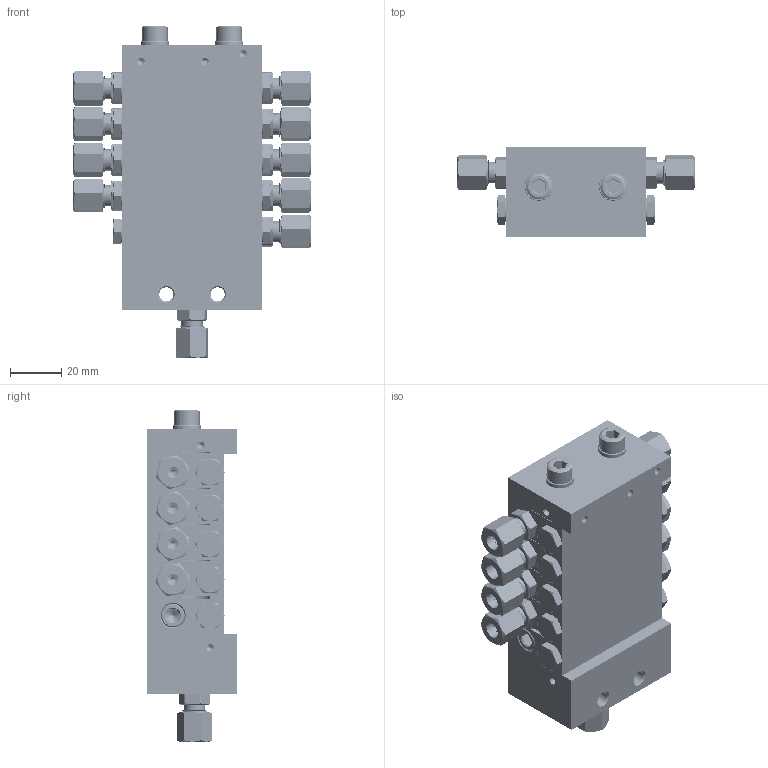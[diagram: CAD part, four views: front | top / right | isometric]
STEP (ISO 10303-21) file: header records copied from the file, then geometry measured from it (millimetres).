
FILE_DESCRIPTION (( 'STEP AP214' ), '1' );
FILE_NAME ('STW_XV_0143_09_050_9_Auslässe.STEP', '2026-01-28T14:49:38', ( '' ), ( '' ), 'SwSTEP 2.0', 'SolidWorks 2022', '' );
FILE_SCHEMA (( 'AUTOMOTIVE_DESIGN' ));
Length unit declared in the file: millimetre
Products named in the file (15): 991214010601; XV_Mittelelement; STW_XV_0143_09_050_9_Auslässe; STW_XV_Verbindungsstopen; Verschlussstopfen_1_8; 991214010601_Schneidring; 991214010601_Koerper; STW_XV_Kolbenanschlag; STW_XV_END; U_Scheibe_6; STW_XV_ENGANG; 991214010601_Mutter; M6X65_DIN_912; STW_XV_MITTEL_1; Verschlussstopfen_1_8_2
Assembly tree (46 placements, depth 3):
  STW_XV_0143_09_050_9_Auslässe
    STW_XV_ENGANG
    STW_XV_MITTEL_1  x3
    STW_XV_END
    Verschlussstopfen_1_8_2  x6
    STW_XV_Kolbenanschlag  x6
    STW_XV_Verbindungsstopen  x3
    M6X65_DIN_912  x2
    U_Scheibe_6  x2
    991214010601  x10
      991214010601_Koerper
      991214010601_Schneidring
      991214010601_Mutter
    XV_Mittelelement  x2
      STW_XV_MITTEL_1
      STW_XV_Kolbenanschlag
      Verschlussstopfen_1_8_2
      STW_XV_Verbindungsstopen
    Verschlussstopfen_1_8
Bounding box: 92.76 x 35 x 129.68 mm (x, y, z)
Volume: 186081 mm3; surface area: 105029.5 mm2
Topology: 67 solids, 67 shells, 2195 faces, 5559 edges, 3570 vertices
Faces by surface type: plane 1001, cylinder 649, cone 379, bspline 156, torus 10
Full cylindrical faces by diameter (mm): 2 x137, 3 x12, 4.5 x10, 5 x56, 5.5 x2, 5.9 x2, 6 x12, 6.2 x22, 6.4 x2, 6.5 x10, 7 x10, 7.4 x10, 7.67 x10, 8 x20, 8.3 x10, 8.4 x5, 8.6 x25, 9 x21, 9.7 x11, 9.73 x5, 9.8 x70, 10 x12, 11 x2, 15 x1
Entity records: 41426 total; most frequent: CARTESIAN_POINT 20634, ORIENTED_EDGE 2808, DIRECTION 2405, EDGE_CURVE 1404, VERTEX_POINT 997, EDGE_LOOP 925, AXIS2_PLACEMENT_3D 844, FACE_OUTER_BOUND 744
